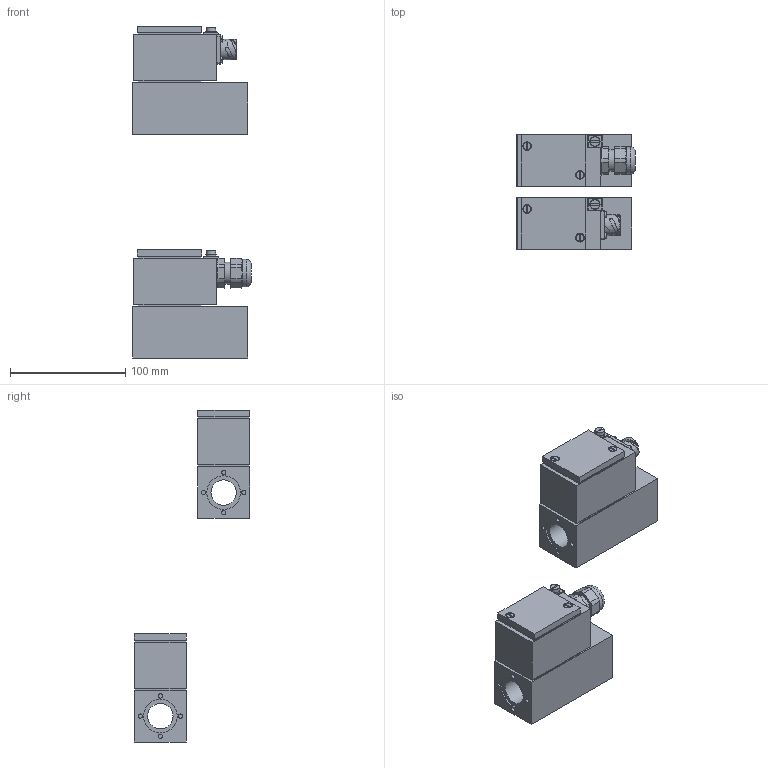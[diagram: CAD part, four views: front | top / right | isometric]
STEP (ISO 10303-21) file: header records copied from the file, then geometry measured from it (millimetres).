
FILE_DESCRIPTION(('Bauteilbeschreibung','HiCAD-Model','HiCAD-STEP-TRANSLATION','Bauteilbeschreibung'),'2;1');
FILE_NAME('K:/STEP_DXF/M_Z45-100.STP','2006-05-16T07:05:21+00:00',('Konstrukteur'),('Konstrukteur Firma GmbH'),'HiCAD3 V1210 STEP 1.6.2005','HiCAD3 V1210','confidential');
FILE_SCHEMA(('AUTOMOTIVE_DESIGN { 1 2 10303 214 0 1 1 1 }'));
Length unit declared in the file: millimetre
Products named in the file (9): M_Z45_100; MKZ45_100; A1657C3A; A1657C3A0; STECKER; MBZ45_100; E8C55B67; E8C55B670; STECKER0
Assembly tree (8 placements, depth 4):
  M_Z45_100
    MKZ45_100
      A1657C3A
      A1657C3A0
        STECKER
    MBZ45_100
      E8C55B67
      E8C55B670
        STECKER0
Bounding box: 103 x 100 x 288.6 mm (x, y, z)
Volume: 650233.3 mm3; surface area: 98499 mm2
Topology: 4 solids, 4 shells, 344 faces, 828 edges, 545 vertices
Faces by surface type: plane 256, cylinder 59, cone 20, torus 9
Full cylindrical faces by diameter (mm): 1.5 x2, 3.7 x16, 5.5 x4, 7.5 x4, 8.8 x2, 11.5 x1, 19 x1, 22.1 x2, 24 x1, 26 x1, 29.3 x4
Entity records: 17676 total; most frequent: CARTESIAN_POINT 3008, DIRECTION 1699, ORIENTED_EDGE 1530, COLOUR_RGB 1113, PRESENTATION_STYLE_ASSIGNMENT 1113, OVER_RIDING_STYLED_ITEM 1109, CURVE_STYLE 765, DRAUGHTING_PRE_DEFINED_CURVE_FONT 765
